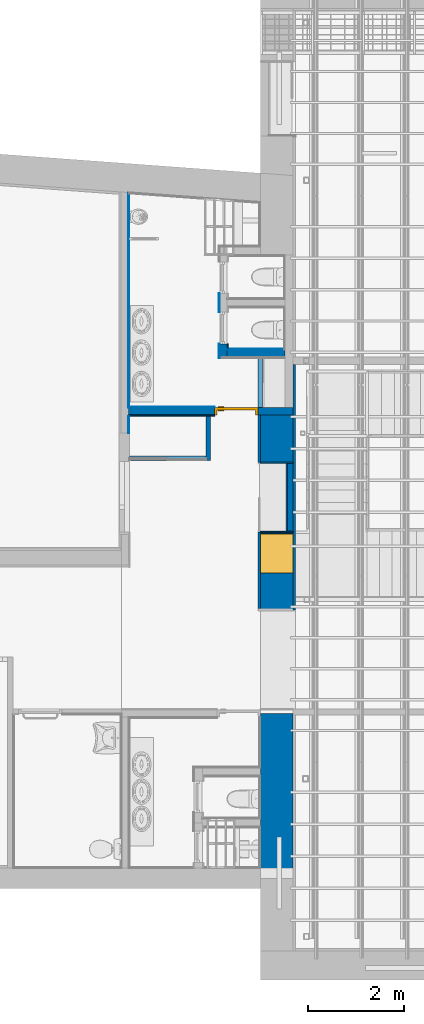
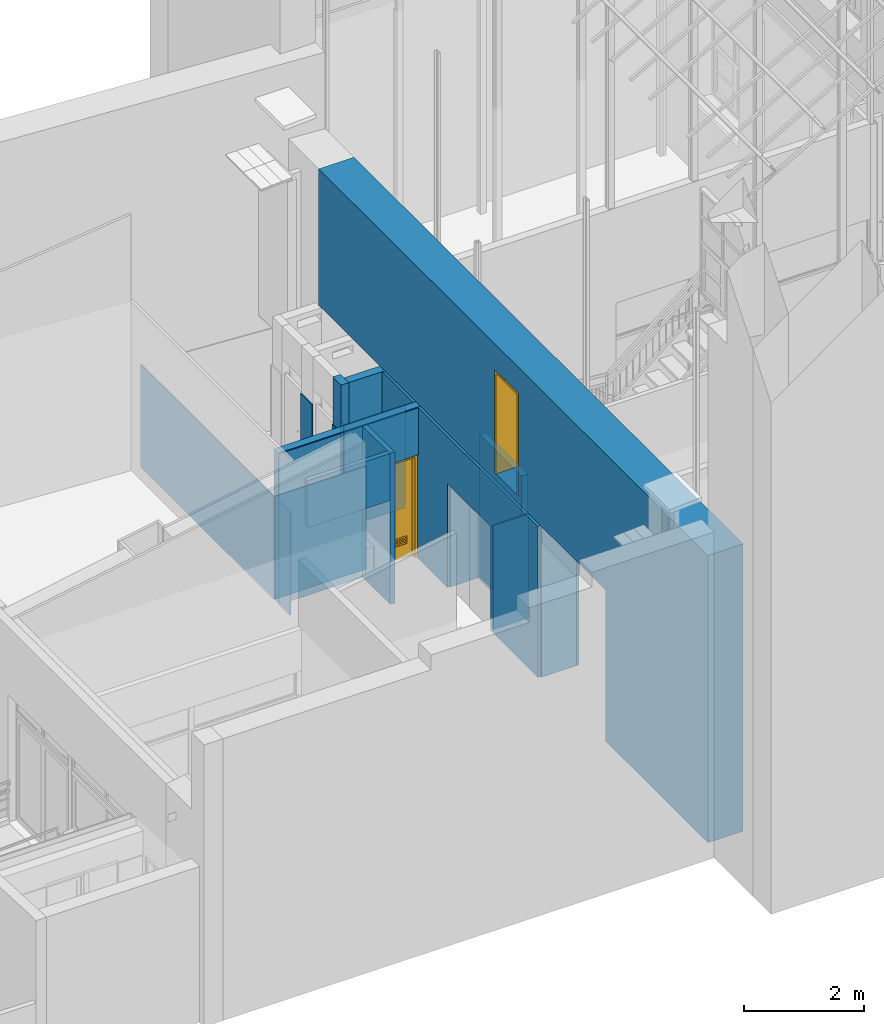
"""IFC2X3 building model written with IfcOpenShell, lengths in metres."""

import ifcopenshell
import ifcopenshell.guid

model = None  # the IFC model being written
_history = None  # IfcOwnerHistory: only IFC2X3 demands one
_inside = {}  # id of a spatial element -> (the spatial element, [elements in it])
_under = {}  # id of a project, library or spatial element -> (it, [spatial elements below it])
_declared = {}  # id of a project -> (the project, [libraries it declares])
_typed = {}  # id of a type object -> (the type object, [elements of that type])
_made_of = {}  # id of a material, layer set ... -> (it, [elements and type objects made of it])


def new_model(schema):
    """Start an empty IFC model of exactly this schema.

    Asked for "IFC4X3", IfcOpenShell would pick the latest addendum, in which some entities
    have other attributes; the version numbers below select the first issue.
    IFC2X3 requires an IfcOwnerHistory on every rooted entity: one is made here for all.
    """
    global model, _history
    if schema == "IFC4X3":
        model = ifcopenshell.file(schema_version=(4, 3, 0, 0))
    else:
        model = ifcopenshell.file(schema=schema)
    _inside.clear()
    _under.clear()
    _declared.clear()
    _typed.clear()
    _made_of.clear()
    _history = None
    if model.schema == "IFC2X3":
        org = make("IfcOrganization", Name="unknown")
        user = make(
            "IfcPersonAndOrganization",
            ThePerson=make("IfcPerson", FamilyName="unknown"),
            TheOrganization=org,
        )
        app = make(
            "IfcApplication",
            ApplicationDeveloper=org,
            Version="unknown",
            ApplicationFullName="unknown",
            ApplicationIdentifier="unknown",
        )
        _history = make(
            "IfcOwnerHistory",
            OwningUser=user,
            OwningApplication=app,
            ChangeAction="ADDED",
            CreationDate=0,
        )
    return model


def make(cls, **values):
    """One entity of the class cls with the attributes given. An attribute that is None is left unset."""
    return model.create_entity(
        cls, **{name: value for name, value in values.items() if value is not None}
    )


def entity(cls, *values):
    """Any entity or typed value of the class cls, its attributes in the order of the schema. None: left unset."""
    e = model.create_entity(cls)
    for i, value in enumerate(values):
        if value is not None:
            e[i] = value
    return e


def rooted(cls, **values):
    """An entity with a GlobalId (a new one), such as an element, a storey or a relation."""
    return make(cls, GlobalId=ifcopenshell.guid.new(), OwnerHistory=_history, **values)


def si_unit(unit_type, name, prefix=None):
    """IfcSIUnit, for example si_unit("LENGTHUNIT", "METRE", prefix="MILLI")."""
    return make("IfcSIUnit", UnitType=unit_type, Prefix=prefix, Name=name)


def converted_unit(unit_type, name, factor, base, dimensions=None, offset=None):
    """IfcConversionBasedUnit, such as the inch: factor (a typed value) times the base unit."""
    return make(
        "IfcConversionBasedUnit"
        if offset is None
        else "IfcConversionBasedUnitWithOffset",
        ConversionOffset=offset,
        Dimensions=None
        if dimensions is None
        else entity("IfcDimensionalExponents", *dimensions),
        UnitType=unit_type,
        Name=name,
        ConversionFactor=make(
            "IfcMeasureWithUnit", ValueComponent=factor, UnitComponent=base
        ),
    )


def derived_unit(unit_type, elements):
    """IfcDerivedUnit: a product of units, each with its exponent."""
    return make(
        "IfcDerivedUnit",
        Elements=[
            make("IfcDerivedUnitElement", Unit=unit, Exponent=power)
            for unit, power in elements
        ],
        UnitType=unit_type,
    )


def assignment(units):
    """IfcUnitAssignment: the units of a project."""
    return None if units is None else make("IfcUnitAssignment", Units=units)


def point(xyz):
    """IfcCartesianPoint."""
    return None if xyz is None else make("IfcCartesianPoint", Coordinates=xyz)


def direction(xyz):
    """IfcDirection."""
    return None if xyz is None else make("IfcDirection", DirectionRatios=xyz)


def frame(location, z_axis=None, x_axis=None):
    """IfcAxis2Placement3D, a coordinate frame: its origin and axes. An axis left out is left unset."""
    return make(
        "IfcAxis2Placement3D",
        Location=point(location),
        Axis=direction(z_axis),
        RefDirection=direction(x_axis),
    )


def frame_2d(location, x_axis=None):
    """IfcAxis2Placement2D, a coordinate frame in the plane: its origin and x axis."""
    return make(
        "IfcAxis2Placement2D", Location=point(location), RefDirection=direction(x_axis)
    )


def origin():
    """The frame at (0, 0, 0) with its axes left unset."""
    return frame((0.0, 0.0, 0.0))


def origin_2d_with_axis():
    """The frame at (0, 0) in the plane with the x axis (1, 0) written out."""
    return frame_2d((0.0, 0.0), x_axis=(1.0, 0.0))


def place(relative_to, where):
    """IfcLocalPlacement: puts the frame where relative to a parent placement (None: the world)."""
    return make(
        "IfcLocalPlacement", PlacementRelTo=relative_to, RelativePlacement=where
    )


def context(
    kind, dimensions, precision=None, world=None, true_north=None, identifier=None
):
    """IfcGeometricRepresentationContext, for example the 3D "Model" context."""
    return make(
        "IfcGeometricRepresentationContext",
        ContextIdentifier=identifier,
        ContextType=kind,
        CoordinateSpaceDimension=dimensions,
        Precision=precision,
        WorldCoordinateSystem=world,
        TrueNorth=true_north,
    )


def subcontext(parent, identifier, kind, view, scale=None):
    """IfcGeometricRepresentationSubContext, for example "Body" below "Model"."""
    return make(
        "IfcGeometricRepresentationSubContext",
        ContextIdentifier=identifier,
        ContextType=kind,
        ParentContext=parent,
        TargetScale=scale,
        TargetView=view,
    )


def project(units=None, contexts=None):
    """IfcProject with its units and contexts."""
    return rooted(
        "IfcProject",
        Name="project",
        RepresentationContexts=contexts,
        UnitsInContext=assignment(units),
    )


def spatial(cls, under=None, at=None, **own):
    """A site, building, storey or space (cls), placed at a placement, below another one or the project."""
    s = rooted(cls, ObjectPlacement=at, **own)
    if under is not None:
        _under.setdefault(under.id(), (under, []))[1].append(s)
    return s


def polyline(points):
    """IfcPolyline through the points."""
    return make("IfcPolyline", Points=[point(p) for p in points])


def profile(cls, at=None, kind="AREA", **sizes):
    """A parametric profile (cls). Its sizes go by their IFC names, for example OverallWidth=200.0."""
    return make(cls, ProfileType=kind, Position=at, **sizes)


def rectangle(**sizes):
    """IfcRectangleProfileDef."""
    return profile("IfcRectangleProfileDef", **sizes)


def outline(outer, holes=None, kind="AREA"):
    """IfcArbitraryClosedProfileDef: a profile drawn as a closed curve; with holes, ...WithVoids."""
    if holes is None:
        return make("IfcArbitraryClosedProfileDef", ProfileType=kind, OuterCurve=outer)
    return make(
        "IfcArbitraryProfileDefWithVoids",
        ProfileType=kind,
        OuterCurve=outer,
        InnerCurves=holes,
    )


def extrude(swept, where, along, depth):
    """IfcExtrudedAreaSolid: the profile swept, set in the frame where, extruded along a direction by depth."""
    return make(
        "IfcExtrudedAreaSolid",
        SweptArea=swept,
        Position=where,
        ExtrudedDirection=direction(along),
        Depth=depth,
    )


def shape(context_of_items, identifier, shape_type, items):
    """IfcShapeRepresentation: the items that make up one representation, for example the "Body"."""
    return make(
        "IfcShapeRepresentation",
        ContextOfItems=context_of_items,
        RepresentationIdentifier=identifier,
        RepresentationType=shape_type,
        Items=items,
    )


def source(mapping_origin, context_of_items, identifier, shape_type, items):
    """IfcRepresentationMap: a shape defined once, which mapped items show again and again."""
    return make(
        "IfcRepresentationMap",
        MappingOrigin=mapping_origin,
        MappedRepresentation=shape(context_of_items, identifier, shape_type, items),
    )


def transform(
    local_origin,
    x_axis=None,
    y_axis=None,
    z_axis=None,
    scale=None,
    scale2=None,
    scale3=None,
    uniform=True,
):
    """IfcCartesianTransformationOperator3D, or its non-uniform kind. x_axis, y_axis, z_axis: its Axis1, 2, 3."""
    if uniform:
        return make(
            "IfcCartesianTransformationOperator3D",
            Axis1=direction(x_axis),
            Axis2=direction(y_axis),
            LocalOrigin=point(local_origin),
            Scale=scale,
            Axis3=direction(z_axis),
        )
    return make(
        "IfcCartesianTransformationOperator3DnonUniform",
        Axis1=direction(x_axis),
        Axis2=direction(y_axis),
        LocalOrigin=point(local_origin),
        Scale=scale,
        Axis3=direction(z_axis),
        Scale2=scale2,
        Scale3=scale3,
    )


def mapped(mapping_source, mapping_target):
    """IfcMappedItem: shows the shape of a source again, moved by a transform."""
    return make(
        "IfcMappedItem", MappingSource=mapping_source, MappingTarget=mapping_target
    )


def material(Name=None, Category=None):
    """IfcMaterial."""
    return make("IfcMaterial", Name=Name, Category=Category)


def material_list(materials):
    """IfcMaterialList."""
    return make("IfcMaterialList", Materials=materials)


def layer(
    of_material, thickness, ventilated=None, Name=None, Category=None, Priority=None
):
    """IfcMaterialLayer: one layer of a wall or slab, of a material (None: an air gap)."""
    return make(
        "IfcMaterialLayer",
        Material=of_material,
        LayerThickness=thickness,
        IsVentilated=ventilated,
        Name=Name,
        Category=Category,
        Priority=Priority,
    )


def layer_set(layers, Name=None):
    """IfcMaterialLayerSet."""
    return make("IfcMaterialLayerSet", MaterialLayers=layers, LayerSetName=Name)


def layer_usage(for_layer_set, set_direction, sense, offset, extent=None):
    """IfcMaterialLayerSetUsage: how a layer set lies in its element."""
    return make(
        "IfcMaterialLayerSetUsage",
        ForLayerSet=for_layer_set,
        LayerSetDirection=set_direction,
        DirectionSense=sense,
        OffsetFromReferenceLine=offset,
        ReferenceExtent=extent,
    )


def made_of(thing, what):
    """Note that an element or type object is made of a material, layer set ...; save() writes the relation."""
    if what is not None:
        _made_of.setdefault(what.id(), (what, []))[1].append(thing)
    return thing


def type_object(cls, material=None, **own):
    """A type object (cls), such as IfcWallType, which elements share."""
    return made_of(rooted(cls, **own), material)


def type_shapes(of_type, sources):
    """Give a type object the sources (RepresentationMaps) that its elements show as mapped items."""
    of_type.RepresentationMaps = sources


def element(
    cls,
    number,
    at=None,
    inside=None,
    cuts=None,
    type_object=None,
    material=None,
    context=None,
    identifier="Body",
    shape_type=None,
    held_by="IfcProductDefinitionShape",
    body=None,
    shapes=None,
    **own,
):
    """One element of the class cls, such as IfcWall. Its Tag is "e" and its number.

    at: its placement. inside: the storey or other place that contains it. cuts: it is an
    opening in that element (IfcRelVoidsElement). A single representation is given by context,
    identifier, shape_type and body (its items); several are given by shapes. held_by: the class
    of the entity that holds the representations. save() writes the other relations.
    """
    e = rooted(cls, Tag="e%d" % number, ObjectPlacement=at, **own)
    if body is not None:
        shapes = [shape(context, identifier, shape_type, body)]
    if shapes is not None:
        e.Representation = make(held_by, Representations=shapes)
    if inside is not None:
        _inside.setdefault(inside.id(), (inside, []))[1].append(e)
    if cuts is not None:
        rooted(
            "IfcRelVoidsElement", RelatingBuildingElement=cuts, RelatedOpeningElement=e
        )
    if type_object is not None:
        _typed.setdefault(type_object.id(), (type_object, []))[1].append(e)
    return made_of(e, material)


def fill(opening, filler):
    """IfcRelFillsElement: the door or window that sits in an opening."""
    return rooted(
        "IfcRelFillsElement",
        RelatingOpeningElement=opening,
        RelatedBuildingElement=filler,
    )


def aggregate(whole, parts):
    """IfcRelAggregates: a whole, such as a stair, and the parts it consists of."""
    return rooted("IfcRelAggregates", RelatingObject=whole, RelatedObjects=parts)


def save(model, path):
    """Write the relations noted so far, then the file.

    IfcRelAggregates (storeys below a building ...), IfcRelContainedInSpatialStructure (elements
    in a storey), IfcRelDefinesByType, IfcRelAssociatesMaterial and IfcRelDeclares: one each for
    every whole, place, type object, material and project.
    """
    for whole, parts in _under.values():
        aggregate(whole, parts)
    for where, things in _inside.values():
        rooted(
            "IfcRelContainedInSpatialStructure",
            RelatedElements=things,
            RelatingStructure=where,
        )
    for kind, things in _typed.values():
        rooted("IfcRelDefinesByType", RelatedObjects=things, RelatingType=kind)
    for what, things in _made_of.values():
        rooted("IfcRelAssociatesMaterial", RelatedObjects=things, RelatingMaterial=what)
    for by, libraries in _declared.values():
        rooted("IfcRelDeclares", RelatingContext=by, RelatedDefinitions=libraries)
    model.write(path)


model = new_model("IFC2X3")

# Units and contexts
model_context = context("Model", 3, precision=1e-05, world=origin(), true_north=direction((6.12303176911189e-17, 1.0)))
body_context = subcontext(model_context, "Body", "Model", "MODEL_VIEW")
ifc_project = project(units=[si_unit("LENGTHUNIT", "METRE"), si_unit("AREAUNIT", "SQUARE_METRE"), si_unit("VOLUMEUNIT", "CUBIC_METRE"), converted_unit("PLANEANGLEUNIT", "DEGREE", entity("IfcRatioMeasure", 0.0174532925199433), si_unit("PLANEANGLEUNIT", "RADIAN"), dimensions=[0, 0, 0, 0, 0, 0, 0]), si_unit("MASSUNIT", "GRAM", prefix="KILO"), derived_unit("MASSDENSITYUNIT", [(si_unit("MASSUNIT", "GRAM", prefix="KILO"), 1), (si_unit("LENGTHUNIT", "METRE"), -3)]), derived_unit("MOMENTOFINERTIAUNIT", [(si_unit("LENGTHUNIT", "METRE"), 4)]), si_unit("TIMEUNIT", "SECOND"), si_unit("FREQUENCYUNIT", "HERTZ"), si_unit("THERMODYNAMICTEMPERATUREUNIT", "DEGREE_CELSIUS"), derived_unit("THERMALTRANSMITTANCEUNIT", [(si_unit("MASSUNIT", "GRAM", prefix="KILO"), 1), (si_unit("THERMODYNAMICTEMPERATUREUNIT", "KELVIN"), -1), (si_unit("TIMEUNIT", "SECOND"), -3)]), derived_unit("VOLUMETRICFLOWRATEUNIT", [(si_unit("LENGTHUNIT", "METRE"), 3), (si_unit("TIMEUNIT", "SECOND"), -1)]), si_unit("ELECTRICCURRENTUNIT", "AMPERE"), si_unit("ELECTRICVOLTAGEUNIT", "VOLT"), si_unit("POWERUNIT", "WATT"), si_unit("FORCEUNIT", "NEWTON", prefix="KILO"), si_unit("ILLUMINANCEUNIT", "LUX"), si_unit("LUMINOUSFLUXUNIT", "LUMEN"), si_unit("LUMINOUSINTENSITYUNIT", "CANDELA"), derived_unit("USERDEFINED", [(si_unit("MASSUNIT", "GRAM", prefix="KILO"), -1), (si_unit("LENGTHUNIT", "METRE"), -2), (si_unit("TIMEUNIT", "SECOND"), 3), (si_unit("LUMINOUSFLUXUNIT", "LUMEN"), 1)]), derived_unit("LINEARVELOCITYUNIT", [(si_unit("LENGTHUNIT", "METRE"), 1), (si_unit("TIMEUNIT", "SECOND"), -1)]), si_unit("PRESSUREUNIT", "PASCAL"), derived_unit("USERDEFINED", [(si_unit("LENGTHUNIT", "METRE"), -2), (si_unit("MASSUNIT", "GRAM", prefix="KILO"), 1), (si_unit("TIMEUNIT", "SECOND"), -2)]), derived_unit("LINEARFORCEUNIT", [(si_unit("MASSUNIT", "GRAM", prefix="KILO"), 1), (si_unit("LENGTHUNIT", "METRE"), 1), (si_unit("TIMEUNIT", "SECOND"), -2), (si_unit("LENGTHUNIT", "METRE"), -1)]), derived_unit("PLANARFORCEUNIT", [(si_unit("MASSUNIT", "GRAM", prefix="KILO"), 1), (si_unit("LENGTHUNIT", "METRE"), 1), (si_unit("TIMEUNIT", "SECOND"), -2), (si_unit("LENGTHUNIT", "METRE"), -2)])], contexts=[model_context])

# Site, building, storey
site_placement = place(None, origin())
site = spatial("IfcSite", under=ifc_project, at=site_placement, Name="Superficie", CompositionType="ELEMENT")
building_placement = place(site_placement, origin())
building = spatial("IfcBuilding", under=site, at=building_placement, Name="Telegestiones", CompositionType="ELEMENT")
storey_1_placement = place(building_placement, origin())
storey_1 = spatial("IfcBuildingStorey", under=building, at=storey_1_placement, Name="Nivel 0_NPT", CompositionType="ELEMENT", Elevation=0.0)

# Wall
ifc_material_1 = material(Name="Muro por defecto")
ifc_layer_1 = layer(ifc_material_1, 0.15)
ifc_layer_set_1 = layer_set([ifc_layer_1], Name="Muro básico:ARQ-MU-IN-15-Gen")
ifc_layer_usage_1 = layer_usage(ifc_layer_set_1, "AXIS2", "POSITIVE", -0.075)
wall_type_1 = type_object("IfcWallType", Name="Muro básico:ARQ-MU-IN-15-Gen", PredefinedType="STANDARD", material=ifc_layer_set_1)
wall_1_placement = place(storey_1_placement, frame((4.58981262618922, 6.503607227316, 0.0), z_axis=(0.0, 0.0, 1.0), x_axis=(0.0, 1.0, 0.0)))
element("IfcWallStandardCase", 1, at=wall_1_placement, inside=storey_1, type_object=wall_type_1, material=ifc_layer_usage_1, Name="Muro básico:ARQ-MU-IN-15-Gen", ObjectType="Muro básico:ARQ-MU-IN-15-Gen", context=body_context, shape_type="SweptSolid", body=[
    extrude(rectangle(XDim=0.280000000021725, YDim=0.149999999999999, at=frame_2d((0.140000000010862, -1.38777878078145e-17), x_axis=(-1.0, 0.0))), origin(), (0.0, 0.0, 1.0), 3.06),
])

# Wall, opening, door
ifc_layer_usage_2 = layer_usage(ifc_layer_set_1, "AXIS2", "POSITIVE", -0.075)
wall_2_placement = place(storey_1_placement, frame((2.61740672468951, 5.388607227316, 0.0)))
wall_2 = element("IfcWallStandardCase", 2, at=wall_2_placement, inside=storey_1, type_object=wall_type_1, material=ifc_layer_usage_2, Name="Muro básico:ARQ-MU-IN-15-Gen", ObjectType="Muro básico:ARQ-MU-IN-15-Gen", context=body_context, shape_type="SweptSolid", body=[
    extrude(rectangle(XDim=3.41688305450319, YDim=0.150000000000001, at=frame_2d((1.70844152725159, 2.77555756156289e-17), x_axis=(-1.0, 0.0))), origin(), (0.0, 0.0, 1.0), 3.06),
])
opening_1_placement = place(wall_2_placement, frame((2.68740590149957, 0.0749999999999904, 0.0)))
opening_1 = element("IfcOpeningElement", 3, at=opening_1_placement, cuts=wall_2, Name="ARQ-PU-INT-90x210-Mad-C3:ARQ-PU-INT-90x210-Mad:1", ObjectType="Opening", context=body_context, shape_type="SweptSolid", body=[
    extrude(rectangle(XDim=2.09999999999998, YDim=0.9, at=frame_2d((1.04999999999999, 0.45), x_axis=(1.0, 0.0))), frame((0.0, 0.0, 0.0), z_axis=(0.0, -1.0, 0.0), x_axis=(0.0, 0.0, 1.0)), (0.0, 0.0, 1.0), 0.15),
])
ifc_material_2 = material(Name="Caoba")
ifc_material_3 = material(Name="Aluminio")
ifc_material_4 = material(Name="<Unnamed>")
ifc_material_list_1 = material_list([ifc_material_2, ifc_material_3, ifc_material_4])
ifc_material_list_2 = material_list([ifc_material_2, ifc_material_3, ifc_material_3, ifc_material_3, ifc_material_3, ifc_material_3, ifc_material_3, ifc_material_4, ifc_material_4, ifc_material_2])
door_style_1 = type_object("IfcDoorStyle", Name="ARQ-PU-INT-90x210-Mad-C3:ARQ-PU-INT-90x210-Mad", ConstructionType="NOTDEFINED", OperationType="DOUBLE_SWING_LEFT", ParameterTakesPrecedence=False, Sizeable=False, material=ifc_material_list_2)
shared_shape_1 = source(origin(), body_context, "Body", "SweptSolid", [
    extrude(outline(polyline([(-0.449999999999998, -1.06249999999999), (0.450000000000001, -1.06249999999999), (0.450000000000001, 1.03749999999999), (0.400000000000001, 1.03749999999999), (0.400000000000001, -1.01249999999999), (-0.400000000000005, -1.01249999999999), (-0.400000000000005, 1.03749999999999), (-0.449999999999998, 1.03749999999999), (-0.449999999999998, -1.06249999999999)])), frame((0.450000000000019, 0.3, 1.03749999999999), z_axis=(0.0, -1.0, 0.0), x_axis=(-1.0, 0.0, 0.0)), (0.0, 0.0, 1.0), 0.15),
    extrude(rectangle(XDim=0.00504261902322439, YDim=0.0554154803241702, at=frame_2d((-1.73472347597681e-17, -2.86229373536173e-17), x_axis=(0.0, 1.0))), frame((0.75501001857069, 0.174943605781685, 0.409593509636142), z_axis=(-1.0, 0.0, 0.0), x_axis=(0.0, 0.857492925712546, -0.514495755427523)), (0.0, 0.0, 1.0), 0.610020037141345),
    extrude(rectangle(XDim=0.00504261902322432, YDim=0.0554154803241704, at=frame_2d((3.46944695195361e-18, 1.69135538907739e-17), x_axis=(0.0, 1.0))), frame((0.75501001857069, 0.174943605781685, 0.289593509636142), z_axis=(-1.0, 0.0, 0.0), x_axis=(0.0, 0.857492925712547, -0.514495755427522)), (0.0, 0.0, 1.0), 0.610020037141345),
    extrude(rectangle(XDim=0.00504261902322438, YDim=0.0554154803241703, at=frame_2d((0.0, 0.0), x_axis=(0.0, 1.0))), frame((0.75501001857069, 0.174943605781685, 0.379593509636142), z_axis=(-1.0, 0.0, 0.0), x_axis=(0.0, 0.857492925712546, -0.514495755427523)), (0.0, 0.0, 1.0), 0.610020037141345),
    extrude(rectangle(XDim=0.00504261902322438, YDim=0.0554154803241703, at=frame_2d((3.46944695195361e-18, -1.95156391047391e-18), x_axis=(0.0, 1.0))), frame((0.75501001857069, 0.174943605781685, 0.349593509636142), z_axis=(-1.0, 0.0, 0.0), x_axis=(0.0, 0.857492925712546, -0.514495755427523)), (0.0, 0.0, 1.0), 0.610020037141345),
    extrude(rectangle(XDim=0.00504261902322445, YDim=0.0554154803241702, at=frame_2d((3.46944695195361e-18, -1.95156391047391e-18), x_axis=(0.0, 1.0))), frame((0.75501001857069, 0.174943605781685, 0.319593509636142), z_axis=(-1.0, 0.0, 0.0), x_axis=(0.0, 0.857492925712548, -0.51449575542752)), (0.0, 0.0, 1.0), 0.610020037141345),
    extrude(outline(polyline([(-0.0999999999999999, -0.325010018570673), (0.1, -0.325010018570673), (0.0999999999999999, 0.325010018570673), (-0.1, 0.325010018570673), (-0.0999999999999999, -0.325010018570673)]), holes=[polyline([(-0.0799999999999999, -0.305010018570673), (-0.0800000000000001, 0.305010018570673), (0.0799999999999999, 0.305010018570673), (0.0800000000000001, -0.305010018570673), (-0.0799999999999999, -0.305010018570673)])]), frame((0.450000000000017, 0.2, 0.35), z_axis=(0.0, -1.0, 0.0), x_axis=(0.0, 0.0, -1.0)), (0.0, 0.0, 1.0), 0.05),
    extrude(rectangle(XDim=0.120000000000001, YDim=0.02, at=frame_2d((-1.73472347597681e-17, -8.67361737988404e-18), x_axis=(1.0, 0.0))), frame((0.769677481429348, 0.14, 0.900000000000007)), (0.0, 0.0, 1.0), 0.0200000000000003),
    extrude(rectangle(XDim=0.120000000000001, YDim=0.02, at=frame_2d((1.73472347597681e-17, 0.0), x_axis=(1.0, 0.0))), frame((0.769677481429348, 0.21, 0.900000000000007), z_axis=(0.0, 0.0, 1.0), x_axis=(-1.0, 0.0, 0.0)), (0.0, 0.0, 1.0), 0.0200000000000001),
    extrude(outline(polyline([(-1.02499999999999, -0.400000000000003), (1.02499999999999, -0.400000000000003), (1.02499999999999, 0.400000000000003), (-1.02499999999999, 0.400000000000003), (-1.02499999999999, -0.400000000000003)]), holes=[polyline([(0.57499999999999, -0.325010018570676), (0.57499999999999, 0.32501001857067), (0.77499999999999, 0.32501001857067), (0.77499999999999, -0.325010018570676), (0.57499999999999, -0.325010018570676)])]), frame((0.45000000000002, 0.2, 1.02499999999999), z_axis=(0.0, -1.0, 0.0), x_axis=(0.0, 0.0, -1.0)), (0.0, 0.0, 1.0), 0.05),
])
type_shapes(door_style_1, [shared_shape_1])
door_1_placement = place(opening_1_placement, frame((0.0, 0.150000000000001, 0.0), z_axis=(0.0, 0.0, 1.0), x_axis=(-1.0, 0.0, 0.0)))
door_1 = element("IfcDoor", 4, at=door_1_placement, inside=storey_1, type_object=door_style_1, material=ifc_material_list_1, Name="ARQ-PU-INT-90x210-Mad-C3:ARQ-PU-INT-90x210-Mad", ObjectType="ARQ-PU-INT-90x210-Mad-C3:ARQ-PU-INT-90x210-Mad", OverallHeight=2.09999999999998, OverallWidth=0.9, context=body_context, shape_type="MappedRepresentation", body=[
    mapped(shared_shape_1, transform((0.0, 0.0, 0.0), scale=1.0)),
])
fill(opening_1, door_1)

# Wall, openings
ifc_layer_2 = layer(ifc_material_1, 0.68)
ifc_layer_set_2 = layer_set([ifc_layer_2], Name="Muro básico:ARQ-MU-IN-68-Gen")
ifc_layer_usage_3 = layer_usage(ifc_layer_set_2, "AXIS2", "POSITIVE", -0.34)
wall_type_2 = type_object("IfcWallType", Name="Muro básico:ARQ-MU-IN-68-Gen", PredefinedType="STANDARD", material=ifc_layer_set_2)
wall_3_placement = place(storey_1_placement, frame((5.6942897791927, 8.71360722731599, -0.0199999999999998), z_axis=(0.0, 0.0, 1.0), x_axis=(0.0, -1.0, 0.0)))
wall_3 = element("IfcWallStandardCase", 5, at=wall_3_placement, inside=storey_1, type_object=wall_type_2, material=ifc_layer_usage_3, Name="Muro básico:ARQ-MU-IN-68-Gen", ObjectType="Muro básico:ARQ-MU-IN-68-Gen", context=body_context, shape_type="SweptSolid", body=[
    extrude(rectangle(XDim=13.01, YDim=0.679999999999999, at=frame_2d((6.505, 0.0), x_axis=(-1.0, 0.0))), origin(), (0.0, 0.0, 1.0), 5.86),
])
opening_2_placement = place(wall_3_placement, origin())
element("IfcOpeningElement", 6, at=opening_2_placement, cuts=wall_3, Name="Muro básico:ARQ-MU-IN-68-Gen", ObjectType="Opening", context=body_context, shape_type="SweptSolid", body=[
    extrude(rectangle(XDim=2.09999999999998, YDim=0.15, at=frame_2d((0.0, 0.0), x_axis=(0.0, 1.0))), frame((9.59507017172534, -1.23947715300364, 1.06999999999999), z_axis=(0.0, 1.0, 0.0), x_axis=(1.0, 0.0, 0.0)), (0.0, 0.0, 1.0), 0.899999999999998),
])
opening_3_placement = place(wall_3_placement, origin())
element("IfcOpeningElement", 7, at=opening_3_placement, cuts=wall_3, Name="Muro básico:ARQ-MU-IN-68-Gen", ObjectType="Opening", context=body_context, shape_type="SweptSolid", body=[
    extrude(rectangle(XDim=3.07999999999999, YDim=2.1500701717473, at=origin_2d_with_axis()), frame((8.52003508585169, 0.339999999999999, 1.53999999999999), z_axis=(0.0, -1.0, 0.0), x_axis=(0.0, 0.0, 1.0)), (0.0, 0.0, 1.0), 0.68),
])
opening_4_placement = place(wall_3_placement, origin())
element("IfcOpeningElement", 8, at=opening_4_placement, cuts=wall_3, Name="Muro básico:ARQ-MU-IN-68-Gen", ObjectType="Opening", context=body_context, shape_type="SweptSolid", body=[
    extrude(rectangle(XDim=2.12, YDim=1.435, at=origin_2d_with_axis()), frame((5.1099999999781, 0.34, 1.06), z_axis=(0.0, -1.0, 0.0), x_axis=(0.0, 0.0, 1.0)), (0.0, 0.0, 1.0), 0.68),
])
opening_5_placement = place(wall_3_placement, origin())
element("IfcOpeningElement", 9, at=opening_5_placement, cuts=wall_3, Name="Muro básico:ARQ-MU-IN-68-Gen", ObjectType="Opening", context=body_context, shape_type="SweptSolid", body=[
    extrude(rectangle(XDim=3.08, YDim=3.32499999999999, at=origin_2d_with_axis()), frame((1.6625, 0.339999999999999, 1.54), z_axis=(0.0, -1.0, 0.0), x_axis=(0.0, 0.0, 1.0)), (0.0, 0.0, 1.0), 0.68),
])
opening_6_placement = place(wall_3_placement, frame((6.67600000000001, 0.339999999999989, 3.23)))
opening_6 = element("IfcOpeningElement", 10, at=opening_6_placement, cuts=wall_3, Name="ARQ-PU-INT-90x210-Mad-C3:ARQ-PU-INT-80x210-Mad:1", ObjectType="Opening", context=body_context, shape_type="SweptSolid", body=[
    extrude(rectangle(XDim=2.09999999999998, YDim=0.8, at=frame_2d((1.04999999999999, 0.4), x_axis=(1.0, 0.0))), frame((0.0, 0.0, 0.0), z_axis=(0.0, -1.0, 0.0), x_axis=(0.0, 0.0, 1.0)), (0.0, 0.0, 1.0), 0.68),
])

# Storey
storey_2_placement = place(building_placement, frame((0.0, 0.0, 3.21)))
storey_2 = spatial("IfcBuildingStorey", under=building, at=storey_2_placement, Name="Entrepiso_NPT", CompositionType="ELEMENT", Elevation=3.21)

# Door
ifc_material_list_3 = material_list([ifc_material_2, ifc_material_3, ifc_material_3, ifc_material_3, ifc_material_3, ifc_material_3, ifc_material_3, ifc_material_4, ifc_material_4, ifc_material_2])
ifc_material_list_4 = material_list([ifc_material_2, ifc_material_3, ifc_material_3, ifc_material_3, ifc_material_3, ifc_material_3, ifc_material_3, ifc_material_4, ifc_material_4, ifc_material_2])
door_style_2 = type_object("IfcDoorStyle", Name="ARQ-PU-INT-90x210-Mad-C3:ARQ-PU-INT-80x210-Mad", ConstructionType="NOTDEFINED", OperationType="DOUBLE_SWING_RIGHT", ParameterTakesPrecedence=False, Sizeable=False, material=ifc_material_list_4)
shared_shape_2 = source(origin(), body_context, "Body", "SweptSolid", [
    extrude(outline(polyline([(-0.399999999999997, -1.06249999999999), (0.400000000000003, -1.06249999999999), (0.400000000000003, 1.03749999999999), (0.350000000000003, 1.03749999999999), (0.350000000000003, -1.01249999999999), (-0.35000000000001, -1.01249999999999), (-0.35000000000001, 1.03749999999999), (-0.399999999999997, 1.03749999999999), (-0.399999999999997, -1.06249999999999)])), frame((0.399999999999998, -0.68, 1.03749999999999), z_axis=(0.0, 1.0, 0.0), x_axis=(1.0, 0.0, 0.0)), (0.0, 0.0, 1.0), 0.68),
    extrude(rectangle(XDim=0.0050426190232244, YDim=0.05541548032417, at=frame_2d((-4.66206934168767e-17, 1.21430643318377e-17), x_axis=(1.0, 0.0))), frame((0.0949899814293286, -0.655056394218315, 0.409593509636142), z_axis=(1.0, 0.0, 0.0), x_axis=(0.0, -0.514495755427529, -0.857492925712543)), (0.0, 0.0, 1.0), 0.610020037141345),
    extrude(rectangle(XDim=0.00504261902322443, YDim=0.0554154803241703, at=frame_2d((-1.47451495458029e-17, -8.67361737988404e-18), x_axis=(1.0, 0.0))), frame((0.0949899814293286, -0.655056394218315, 0.289593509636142), z_axis=(1.0, 0.0, 0.0), x_axis=(0.0, -0.514495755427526, -0.857492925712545)), (0.0, 0.0, 1.0), 0.610020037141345),
    extrude(rectangle(XDim=0.0050426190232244, YDim=0.0554154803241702, at=origin_2d_with_axis()), frame((0.0949899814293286, -0.655056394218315, 0.379593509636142), z_axis=(1.0, 0.0, 0.0), x_axis=(0.0, -0.514495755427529, -0.857492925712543)), (0.0, 0.0, 1.0), 0.610020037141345),
    extrude(rectangle(XDim=0.00504261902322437, YDim=0.0554154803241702, at=frame_2d((-1.69135538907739e-17, 2.94902990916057e-17), x_axis=(1.0, 0.0))), frame((0.0949899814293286, -0.655056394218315, 0.349593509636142), z_axis=(1.0, 0.0, 0.0), x_axis=(0.0, -0.514495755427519, -0.857492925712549)), (0.0, 0.0, 1.0), 0.610020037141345),
    extrude(rectangle(XDim=0.00504261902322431, YDim=0.0554154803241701, at=frame_2d((4.33680868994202e-17, 2.77555756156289e-17), x_axis=(1.0, 0.0))), frame((0.0949899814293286, -0.655056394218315, 0.319593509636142), z_axis=(1.0, 0.0, 0.0), x_axis=(0.0, -0.514495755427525, -0.857492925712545)), (0.0, 0.0, 1.0), 0.610020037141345),
    extrude(outline(polyline([(-0.0999999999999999, -0.325010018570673), (0.1, -0.325010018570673), (0.0999999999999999, 0.325010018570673), (-0.1, 0.325010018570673), (-0.0999999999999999, -0.325010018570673)]), holes=[polyline([(-0.0799999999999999, -0.305010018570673), (-0.0800000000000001, 0.305010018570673), (0.0799999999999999, 0.305010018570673), (0.0800000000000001, -0.305010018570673), (-0.0799999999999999, -0.305010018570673)])]), frame((0.400000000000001, -0.68, 0.35), z_axis=(0.0, 1.0, 0.0), x_axis=(0.0, 0.0, -1.0)), (0.0, 0.0, 1.0), 0.05),
    extrude(rectangle(XDim=0.02, YDim=0.120000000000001, at=frame_2d((3.38271077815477e-17, 0.0), x_axis=(1.0, 0.0))), frame((0.13032251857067, -0.69, 0.900000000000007), z_axis=(0.0, 0.0, 1.0), x_axis=(0.0, 1.0, 0.0)), (0.0, 0.0, 1.0), 0.0200000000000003),
    extrude(rectangle(XDim=0.02, YDim=0.120000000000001, at=frame_2d((-3.38271077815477e-17, 3.46944695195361e-17), x_axis=(1.0, 0.0))), frame((0.13032251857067, -0.62, 0.900000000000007), z_axis=(0.0, 0.0, 1.0), x_axis=(0.0, -1.0, 0.0)), (0.0, 0.0, 1.0), 0.0200000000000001),
    extrude(outline(polyline([(-1.02499999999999, -0.350000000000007), (1.02499999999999, -0.350000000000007), (1.02499999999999, 0.350000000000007), (-1.02499999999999, 0.350000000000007), (-1.02499999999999, -0.350000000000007)]), holes=[polyline([(0.57499999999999, -0.32501001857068), (0.57499999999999, 0.325010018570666), (0.77499999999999, 0.325010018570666), (0.77499999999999, -0.32501001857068), (0.57499999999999, -0.32501001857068)])]), frame((0.399999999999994, -0.68, 1.02499999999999), z_axis=(0.0, 1.0, 0.0), x_axis=(0.0, 0.0, -1.0)), (0.0, 0.0, 1.0), 0.05),
])
type_shapes(door_style_2, [shared_shape_2])
door_2_placement = place(opening_6_placement, frame((0.0, -0.68, 0.0), z_axis=(0.0, 0.0, 1.0), x_axis=(-1.0, 0.0, 0.0)))
door_2 = element("IfcDoor", 11, at=door_2_placement, inside=storey_2, type_object=door_style_2, material=ifc_material_list_3, Name="ARQ-PU-INT-90x210-Mad-C3:ARQ-PU-INT-80x210-Mad", ObjectType="ARQ-PU-INT-90x210-Mad-C3:ARQ-PU-INT-80x210-Mad", OverallHeight=2.09999999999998, OverallWidth=0.8, context=body_context, shape_type="MappedRepresentation", body=[
    mapped(shared_shape_2, transform((0.0, 0.0, 0.0), scale=1.0)),
])

fill(opening_6, door_2)

# Walls
ifc_layer_3 = layer(ifc_material_1, 0.16)
ifc_layer_set_3 = layer_set([ifc_layer_3], Name="Muro básico:ARQ-MU-IN-16-Gen")
ifc_layer_usage_4 = layer_usage(ifc_layer_set_3, "AXIS2", "POSITIVE", -0.08)
wall_type_3 = type_object("IfcWallType", Name="Muro básico:ARQ-MU-IN-16-Gen", PredefinedType="STANDARD", material=ifc_layer_set_3)
wall_4_placement = place(storey_1_placement, frame((5.8642897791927, 6.58360722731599, 0.0), z_axis=(0.0, 0.0, 1.0), x_axis=(-1.0, 0.0, 0.0)))
element("IfcWallStandardCase", 12, at=wall_4_placement, inside=storey_1, type_object=wall_type_3, material=ifc_layer_usage_4, Name="Muro básico:ARQ-MU-IN-16-Gen", ObjectType="Muro básico:ARQ-MU-IN-16-Gen", context=body_context, shape_type="SweptSolid", body=[
    extrude(rectangle(XDim=1.19947715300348, YDim=0.16, at=frame_2d((0.599738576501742, -1.38777878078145e-16), x_axis=(-1.0, 0.0))), origin(), (0.0, 0.0, 1.0), 3.06),
])
ifc_layer_4 = layer(ifc_material_1, 0.12)
ifc_layer_set_4 = layer_set([ifc_layer_4], Name="Muro básico:ARQ-MU-IN-12-Gen")
ifc_layer_usage_5 = layer_usage(ifc_layer_set_4, "AXIS2", "NEGATIVE", 0.06)
wall_type_4 = type_object("IfcWallType", Name="Muro básico:ARQ-MU-IN-12-Gen", PredefinedType="STANDARD", material=ifc_layer_set_4)
wall_5_placement = place(storey_1_placement, frame((5.9742897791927, 2.88610722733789, 0.0), z_axis=(0.0, 0.0, 1.0), x_axis=(0.0, 1.0, 0.0)))
element("IfcWallStandardCase", 13, at=wall_5_placement, inside=storey_1, type_object=wall_type_4, material=ifc_layer_usage_5, Name="Muro básico:ARQ-MU-IN-12-Gen", ObjectType="Muro básico:ARQ-MU-IN-12-Gen", context=body_context, shape_type="SweptSolid", body=[
    extrude(rectangle(XDim=1.41, YDim=0.12, at=frame_2d((0.717499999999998, 5.20417042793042e-16), x_axis=(-1.0, 0.0))), origin(), (0.0, 0.0, 1.0), 2.9),
])
ifc_material_5 = material(Name="Placa yeso entera")
ifc_layer_5 = layer(ifc_material_5, 0.01)
ifc_material_6 = material(Name="Estructura de Hierro Galvanizado")
ifc_layer_6 = layer(ifc_material_6, 0.07)
ifc_layer_7 = layer(ifc_material_5, 0.01)
ifc_layer_set_5 = layer_set([ifc_layer_5, ifc_layer_6, ifc_layer_7], Name="Muro básico:ARQ-MU-IN-9-Ye-T2")
ifc_layer_usage_6 = layer_usage(ifc_layer_set_5, "AXIS2", "NEGATIVE", 0.045)
wall_type_5 = type_object("IfcWallType", Name="Muro básico:ARQ-MU-IN-9-Ye-T2", PredefinedType="STANDARD", material=ifc_layer_set_5)
wall_6_placement = place(storey_1_placement, frame((4.27240672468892, 5.28860722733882, -0.0199999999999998), z_axis=(0.0, 0.0, 1.0), x_axis=(0.0, -1.0, 0.0)))
element("IfcWallStandardCase", 14, at=wall_6_placement, inside=storey_1, type_object=wall_type_5, material=ifc_layer_usage_6, Name="Muro básico:ARQ-MU-IN-9-Ye-T2", ObjectType="Muro básico:ARQ-MU-IN-9-Ye-T2", context=body_context, shape_type="SweptSolid", body=[
    extrude(rectangle(XDim=0.917000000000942, YDim=0.0900000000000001, at=frame_2d((0.458500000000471, 0.0), x_axis=(-1.0, 0.0))), origin(), (0.0, 0.0, 1.0), 3.08),
])
ifc_layer_usage_7 = layer_usage(ifc_layer_set_5, "AXIS2", "NEGATIVE", 0.045)
wall_7_placement = place(storey_1_placement, frame((4.22740672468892, 4.41660722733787, 2.1), z_axis=(0.0, 0.0, 1.0), x_axis=(-1.0, 0.0, 0.0)))
element("IfcWallStandardCase", 15, at=wall_7_placement, inside=storey_1, type_object=wall_type_5, material=ifc_layer_usage_7, Name="Muro básico:ARQ-MU-IN-9-Ye-T2", ObjectType="Muro básico:ARQ-MU-IN-9-Ye-T2", context=body_context, shape_type="SweptSolid", body=[
    extrude(rectangle(XDim=1.59, YDim=0.0900000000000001, at=frame_2d((0.795000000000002, -6.93889390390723e-18), x_axis=(-1.0, 0.0))), origin(), (0.0, 0.0, 1.0), 0.959999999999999),
])
ifc_layer_usage_8 = layer_usage(ifc_layer_set_5, "AXIS2", "NEGATIVE", 0.045)
wall_8_placement = place(storey_1_placement, frame((5.34981262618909, 5.46360722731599, 2.1), z_axis=(0.0, 0.0, 1.0), x_axis=(0.0, 1.0, 0.0)))
element("IfcWallStandardCase", 16, at=wall_8_placement, inside=storey_1, type_object=wall_type_5, material=ifc_layer_usage_8, Name="Muro básico:ARQ-MU-IN-9-Ye-T2", ObjectType="Muro básico:ARQ-MU-IN-9-Ye-T2", context=body_context, shape_type="SweptSolid", body=[
    extrude(rectangle(XDim=1.04, YDim=0.089999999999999, at=frame_2d((0.520000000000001, 0.0), x_axis=(-1.0, 0.0))), origin(), (0.0, 0.0, 1.0), 0.959999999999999),
])

# Wall, opening
ifc_layer_8 = layer(ifc_material_5, 0.012)
ifc_layer_9 = layer(ifc_material_6, 0.038)
ifc_layer_set_6 = layer_set([ifc_layer_8, ifc_layer_9], Name="Muro básico:ARQ-RE-IN-5-Ye-M2")
ifc_layer_usage_9 = layer_usage(ifc_layer_set_6, "AXIS2", "POSITIVE", -0.025)
wall_type_6 = type_object("IfcWallType", Name="Muro básico:ARQ-RE-IN-5-Ye-M2", PredefinedType="STANDARD", material=ifc_layer_set_6)
wall_9_placement = place(storey_1_placement, frame((5.3292897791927, 5.31360722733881, -0.0200000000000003), z_axis=(0.0, 0.0, 1.0), x_axis=(0.0, -1.0, 0.0)))
wall_9 = element("IfcWallStandardCase", 17, at=wall_9_placement, inside=storey_1, type_object=wall_type_6, material=ifc_layer_usage_9, Name="Muro básico:ARQ-RE-IN-5-Ye-M2", ObjectType="Muro básico:ARQ-RE-IN-5-Ye-M2", context=body_context, shape_type="SweptSolid", body=[
    extrude(rectangle(XDim=4.02000000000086, YDim=0.0499999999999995, at=frame_2d((2.01000000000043, -2.04697370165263e-16), x_axis=(-1.0, 0.0))), origin(), (0.0, 0.0, 1.0), 3.08),
])
opening_7_placement = place(wall_9_placement, origin())
element("IfcOpeningElement", 18, at=opening_7_placement, cuts=wall_9, Name="Muro básico:ARQ-RE-IN-5-Ye-M2", ObjectType="Opening", context=body_context, shape_type="SweptSolid", body=[
    extrude(rectangle(XDim=2.12000000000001, YDim=1.435, at=frame_2d((0.0, 0.0), x_axis=(0.0, 1.0))), frame((1.71000000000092, 0.0249999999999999, 1.06), z_axis=(0.0, -1.0, 0.0), x_axis=(1.0, 0.0, 0.0)), (0.0, 0.0, 1.0), 0.05),
])

# Wall, openings
ifc_layer_usage_10 = layer_usage(ifc_layer_set_6, "AXIS2", "POSITIVE", -0.025)
wall_10_placement = place(storey_1_placement, frame((6.05928977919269, -0.781462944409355, -0.0199999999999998), z_axis=(0.0, 0.0, 1.0), x_axis=(0.0, 1.0, 0.0)))
wall_10 = element("IfcWallStandardCase", 19, at=wall_10_placement, inside=storey_1, type_object=wall_type_6, material=ifc_layer_usage_10, Name="Muro básico:ARQ-RE-IN-5-Ye-M2", ObjectType="Muro básico:ARQ-RE-IN-5-Ye-M2", context=body_context, shape_type="SweptSolid", body=[
    extrude(rectangle(XDim=7.13707017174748, YDim=0.0499999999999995, at=frame_2d((3.56853508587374, 1.45716771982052e-16), x_axis=(-1.0, 0.0))), origin(), (0.0, 0.0, 1.0), 4.93),
])
opening_8_placement = place(wall_10_placement, origin())
element("IfcOpeningElement", 20, at=opening_8_placement, cuts=wall_10, Name="Muro básico:ARQ-RE-IN-5-Ye-M2", ObjectType="Opening", context=body_context, shape_type="SweptSolid", body=[
    extrude(rectangle(XDim=1.7, YDim=0.799999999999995, at=frame_2d((5.55111512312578e-16, 0.0), x_axis=(1.0, 0.0))), frame((3.21907017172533, 0.0249999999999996, 4.08), z_axis=(0.0, -1.0, 0.0), x_axis=(0.0, 0.0, -1.0)), (0.0, 0.0, 1.0), 0.05),
])
opening_9_placement = place(wall_10_placement, origin())
element("IfcOpeningElement", 21, at=opening_9_placement, cuts=wall_10, Name="Muro básico:ARQ-RE-IN-5-Ye-M2", ObjectType="Opening", context=body_context, shape_type="SweptSolid", body=[
    extrude(rectangle(XDim=3.08, YDim=2.1150701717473, at=origin_2d_with_axis()), frame((0.992535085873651, 0.024999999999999, 1.54), z_axis=(0.0, -1.0, 0.0), x_axis=(0.0, 0.0, 1.0)), (0.0, 0.0, 1.0), 0.05),
])

# Wall, opening
ifc_layer_10 = layer(ifc_material_5, 0.012)
ifc_layer_11 = layer(ifc_material_6, 0.013)
ifc_layer_set_7 = layer_set([ifc_layer_10, ifc_layer_11], Name="Muro básico:ARQ-RE-IN-2-Ye-M4")
ifc_layer_usage_11 = layer_usage(ifc_layer_set_7, "AXIS2", "NEGATIVE", 0.0125)
wall_type_7 = type_object("IfcWallType", Name="Muro básico:ARQ-RE-IN-2-Ye-M4", PredefinedType="STANDARD", material=ifc_layer_set_7)
wall_11_placement = place(storey_1_placement, frame((5.3042897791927, 5.30110722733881, -0.0200000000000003), z_axis=(0.0, 0.0, 1.0), x_axis=(-1.0, 0.0, 0.0)))
wall_11 = element("IfcWallStandardCase", 22, at=wall_11_placement, inside=storey_1, type_object=wall_type_7, material=ifc_layer_usage_11, Name="Muro básico:ARQ-RE-IN-2-Ye-M4", ObjectType="Muro básico:ARQ-RE-IN-2-Ye-M4", context=body_context, shape_type="SweptSolid", body=[
    extrude(rectangle(XDim=2.68688305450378, YDim=0.0250000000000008, at=frame_2d((1.34344152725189, -2.32452945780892e-16), x_axis=(-1.0, 0.0))), origin(), (0.0, 0.0, 1.0), 3.08),
])
opening_10_placement = place(wall_11_placement, origin())
element("IfcOpeningElement", 23, at=opening_10_placement, cuts=wall_11, Name="Muro básico:ARQ-RE-IN-2-Ye-M4", ObjectType="Opening", context=body_context, shape_type="SweptSolid", body=[
    extrude(rectangle(XDim=2.11999999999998, YDim=0.924477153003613, at=frame_2d((-1.11022302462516e-16, 0.0), x_axis=(1.0, 0.0))), frame((0.437238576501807, 0.0124999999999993, 1.05999999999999), z_axis=(0.0, -1.0, 0.0), x_axis=(0.0, 0.0, 1.0)), (0.0, 0.0, 1.0), 0.025),
])

# Walls
ifc_layer_usage_12 = layer_usage(ifc_layer_set_7, "AXIS2", "POSITIVE", -0.0125)
wall_12_placement = place(storey_1_placement, frame((5.9017897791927, 4.32110722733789, -0.0199999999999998), z_axis=(0.0, 0.0, 1.0), x_axis=(0.0, -1.0, 0.0)))
element("IfcWallStandardCase", 24, at=wall_12_placement, inside=storey_1, type_object=wall_type_7, material=ifc_layer_usage_12, Name="Muro básico:ARQ-RE-IN-2-Ye-M4", ObjectType="Muro básico:ARQ-RE-IN-2-Ye-M4", context=body_context, shape_type="SweptSolid", body=[
    extrude(rectangle(XDim=1.41, YDim=0.0249999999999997, at=frame_2d((0.717499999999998, 5.23019128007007e-16), x_axis=(-1.0, 0.0))), origin(), (0.0, 0.0, 1.0), 2.92),
])
ifc_layer_usage_13 = layer_usage(ifc_layer_set_7, "AXIS2", "POSITIVE", -0.0125)
wall_13_placement = place(storey_1_placement, frame((6.03428977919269, 2.88610722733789, -0.0200000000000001), z_axis=(0.0, 0.0, 1.0), x_axis=(-1.0, 0.0, 0.0)))
element("IfcWallStandardCase", 25, at=wall_13_placement, inside=storey_1, type_object=wall_type_7, material=ifc_layer_usage_13, Name="Muro básico:ARQ-RE-IN-2-Ye-M4", ObjectType="Muro básico:ARQ-RE-IN-2-Ye-M4", context=body_context, shape_type="SweptSolid", body=[
    extrude(rectangle(XDim=0.679999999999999, YDim=0.0249999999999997, at=frame_2d((0.34, -1.43982048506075e-16), x_axis=(-1.0, 0.0))), origin(), (0.0, 0.0, 1.0), 2.12),
])
ifc_layer_usage_14 = layer_usage(ifc_layer_set_7, "AXIS2", "NEGATIVE", 0.0125)
wall_14_placement = place(storey_1_placement, frame((6.0342897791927, 4.32110722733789, -0.0200000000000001), z_axis=(0.0, 0.0, 1.0), x_axis=(-1.0, 0.0, 0.0)))
element("IfcWallStandardCase", 26, at=wall_14_placement, inside=storey_1, type_object=wall_type_7, material=ifc_layer_usage_14, Name="Muro básico:ARQ-RE-IN-2-Ye-M4", ObjectType="Muro básico:ARQ-RE-IN-2-Ye-M4", context=body_context, shape_type="SweptSolid", body=[
    extrude(rectangle(XDim=0.679999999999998, YDim=0.0249999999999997, at=frame_2d((0.339999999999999, -1.43982048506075e-16), x_axis=(-1.0, 0.0))), origin(), (0.0, 0.0, 1.0), 2.12000000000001),
])
ifc_material_7 = material(Name="Hormigón, Moldeado in situ, gris")
ifc_layer_12 = layer(ifc_material_7, 0.01)
ifc_material_8 = material(Name="Ceramica - Ferrum - Blanco")
ifc_layer_13 = layer(ifc_material_8, 0.01)
ifc_layer_set_8 = layer_set([ifc_layer_12, ifc_layer_13], Name="Muro básico:ARQ-RE-IN-2-Cer")
ifc_layer_usage_15 = layer_usage(ifc_layer_set_8, "AXIS2", "NEGATIVE", 0.01)
wall_type_8 = type_object("IfcWallType", Name="Muro básico:ARQ-RE-IN-2-Cer", PredefinedType="STANDARD", material=ifc_layer_set_8)
wall_15_placement = place(storey_1_placement, frame((2.62740672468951, 5.463607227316, -0.0200000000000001), z_axis=(0.0, 0.0, 1.0), x_axis=(0.0, 1.0, 0.0)))
element("IfcWallStandardCase", 27, at=wall_15_placement, inside=storey_1, type_object=wall_type_8, material=ifc_layer_usage_15, Name="Muro básico:ARQ-RE-IN-2-Cer", ObjectType="Muro básico:ARQ-RE-IN-2-Cer", context=body_context, shape_type="SweptSolid", body=[
    extrude(outline(polyline([(4.45849499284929, -0.0099999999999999), (4.45995909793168, 0.00999999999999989), (0.0, 0.00999999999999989), (0.0, -0.00999999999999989), (0.0199999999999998, -0.00999999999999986), (4.43844147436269, -0.00999999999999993), (4.45849499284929, -0.0099999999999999)])), origin(), (0.0, 0.0, 1.0), 2.1),
])
ifc_layer_usage_16 = layer_usage(ifc_layer_set_8, "AXIS2", "POSITIVE", -0.01)
wall_16_placement = place(storey_1_placement, frame((2.63740672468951, 5.473607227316, -0.0200000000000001)))
element("IfcWallStandardCase", 28, at=wall_16_placement, inside=storey_1, type_object=wall_type_8, material=ifc_layer_usage_16, Name="Muro básico:ARQ-RE-IN-2-Cer", ObjectType="Muro básico:ARQ-RE-IN-2-Cer", context=body_context, shape_type="SweptSolid", body=[
    extrude(rectangle(XDim=1.76740590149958, YDim=0.0199999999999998, at=frame_2d((0.883702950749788, -1.90819582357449e-17), x_axis=(-1.0, 0.0))), origin(), (0.0, 0.0, 1.0), 2.1),
])
ifc_layer_usage_17 = layer_usage(ifc_layer_set_8, "AXIS2", "POSITIVE", -0.01)
wall_17_placement = place(storey_1_placement, frame((2.62740672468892, 5.28860722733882, -0.0200000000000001), z_axis=(0.0, 0.0, 1.0), x_axis=(0.0, -1.0, 0.0)))
element("IfcWallStandardCase", 29, at=wall_17_placement, inside=storey_1, type_object=wall_type_8, material=ifc_layer_usage_17, Name="Muro básico:ARQ-RE-IN-2-Cer", ObjectType="Muro básico:ARQ-RE-IN-2-Cer", context=body_context, shape_type="SweptSolid", body=[
    extrude(rectangle(XDim=0.354022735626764, YDim=0.0199999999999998, at=frame_2d((0.177011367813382, -1.82145964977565e-17), x_axis=(-1.0, 0.0))), origin(), (0.0, 0.0, 1.0), 2.1),
])
ifc_layer_usage_18 = layer_usage(ifc_layer_set_8, "AXIS2", "NEGATIVE", 0.01)
wall_18_placement = place(storey_1_placement, frame((4.50495224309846, 7.83360722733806, 0.0), z_axis=(0.0, 0.0, 1.0), x_axis=(0.0, -1.0, 0.0)))
element("IfcWallStandardCase", 30, at=wall_18_placement, inside=storey_1, type_object=wall_type_8, material=ifc_layer_usage_18, Name="Muro básico:ARQ-RE-IN-2-Cer", ObjectType="Muro básico:ARQ-RE-IN-2-Cer", context=body_context, shape_type="SweptSolid", body=[
    extrude(rectangle(XDim=0.390363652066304, YDim=0.0199999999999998, at=frame_2d((0.195181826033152, 0.0), x_axis=(-1.0, 0.0))), origin(), (0.0, 0.0, 1.0), 2.1),
])
ifc_layer_usage_19 = layer_usage(ifc_layer_set_8, "AXIS2", "NEGATIVE", 0.01)
wall_19_placement = place(storey_1_placement, frame((5.8442897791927, 6.67360722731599, 0.0), z_axis=(0.0, 0.0, 1.0), x_axis=(-1.0, 0.0, 0.0)))
element("IfcWallStandardCase", 31, at=wall_19_placement, inside=storey_1, type_object=wall_type_8, material=ifc_layer_usage_19, Name="Muro básico:ARQ-RE-IN-2-Cer", ObjectType="Muro básico:ARQ-RE-IN-2-Cer", context=body_context, shape_type="SweptSolid", body=[
    extrude(rectangle(XDim=1.17947715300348, YDim=0.0199999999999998, at=frame_2d((0.589738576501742, -3.64291929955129e-17), x_axis=(-1.0, 0.0))), origin(), (0.0, 0.0, 1.0), 2.1),
])
ifc_layer_usage_20 = layer_usage(ifc_layer_set_8, "AXIS2", "NEGATIVE", 0.01)
wall_20_placement = place(storey_1_placement, frame((4.67481262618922, 6.683607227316, 0.0), z_axis=(0.0, 0.0, 1.0), x_axis=(0.0, 1.0, 0.0)))
element("IfcWallStandardCase", 32, at=wall_20_placement, inside=storey_1, type_object=wall_type_8, material=ifc_layer_usage_20, Name="Muro básico:ARQ-RE-IN-2-Cer", ObjectType="Muro básico:ARQ-RE-IN-2-Cer", context=body_context, shape_type="SweptSolid", body=[
    extrude(rectangle(XDim=0.100000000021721, YDim=0.0199999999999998, at=frame_2d((0.0500000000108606, 0.0), x_axis=(-1.0, 0.0))), origin(), (0.0, 0.0, 1.0), 2.1),
])
ifc_layer_usage_21 = layer_usage(ifc_layer_set_8, "AXIS2", "NEGATIVE", 0.01)
wall_21_placement = place(storey_1_placement, frame((4.50481262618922, 6.78360722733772, 0.0), z_axis=(0.0, 0.0, 1.0), x_axis=(0.0, -1.0, 0.0)))
element("IfcWallStandardCase", 33, at=wall_21_placement, inside=storey_1, type_object=wall_type_8, material=ifc_layer_usage_21, Name="Muro básico:ARQ-RE-IN-2-Cer", ObjectType="Muro básico:ARQ-RE-IN-2-Cer", context=body_context, shape_type="SweptSolid", body=[
    extrude(rectangle(XDim=0.300000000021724, YDim=0.0199999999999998, at=frame_2d((0.150000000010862, 1.90819582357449e-17), x_axis=(-1.0, 0.0))), origin(), (0.0, 0.0, 1.0), 2.1),
])

save(model, "model.ifc")
